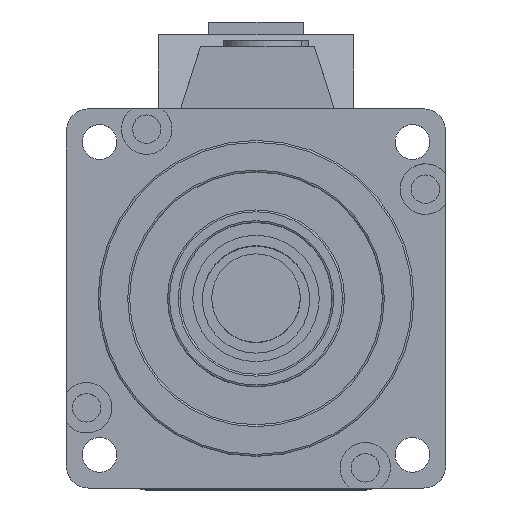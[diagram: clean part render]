
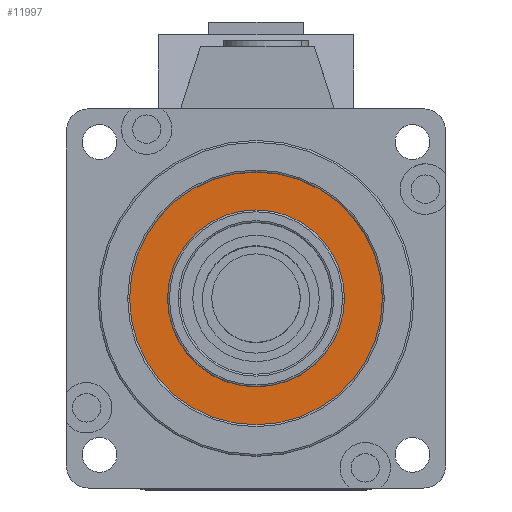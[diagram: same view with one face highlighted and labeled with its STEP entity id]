
A CAD part, top view. The second image highlights one B-rep face of the part: STEP entity #11997.
In plain terms, the highlighted planar face has unit normal (0, 0, 1).
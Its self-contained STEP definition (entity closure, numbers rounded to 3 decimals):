
#573 = DIRECTION ( 'NONE',  ( -1., 0., 0. ) ) ;
#928 = CIRCLE ( 'NONE', #8836, 14. ) ;
#2315 = EDGE_LOOP ( 'NONE', ( #10355, #2454 ) ) ;
#2324 = CIRCLE ( 'NONE', #8958, 14. ) ;
#2454 = ORIENTED_EDGE ( 'NONE', *, *, #6984, .F. ) ;
#3683 = AXIS2_PLACEMENT_3D ( 'NONE', #5120, #8228, #8318 ) ;
#3873 = EDGE_CURVE ( 'NONE', #6689, #4445, #928, .T. ) ;
#3915 = VERTEX_POINT ( 'NONE', #10394 ) ;
#4169 = CIRCLE ( 'NONE', #3683, 20. ) ;
#4289 = CARTESIAN_POINT ( 'NONE',  ( 30., 30., 0. ) ) ;
#4445 = VERTEX_POINT ( 'NONE', #10862 ) ;
#4563 = DIRECTION ( 'NONE',  ( 0., 0., 1. ) ) ;
#4814 = PLANE ( 'NONE',  #12003 ) ;
#5024 = EDGE_CURVE ( 'NONE', #13205, #3915, #4169, .T. ) ;
#5120 = CARTESIAN_POINT ( 'NONE',  ( 30., 30., 0. ) ) ;
#5342 = CARTESIAN_POINT ( 'NONE',  ( 16., 30., 0. ) ) ;
#5361 = AXIS2_PLACEMENT_3D ( 'NONE', #4289, #4563, #7680 ) ;
#5493 = CIRCLE ( 'NONE', #5361, 20. ) ;
#6046 = DIRECTION ( 'NONE',  ( -1., 0., 0. ) ) ;
#6110 = FACE_OUTER_BOUND ( 'NONE', #6688, .T. ) ;
#6688 = EDGE_LOOP ( 'NONE', ( #8624, #12233 ) ) ;
#6689 = VERTEX_POINT ( 'NONE', #5342 ) ;
#6903 = CARTESIAN_POINT ( 'NONE',  ( 30., 30., 0. ) ) ;
#6984 = EDGE_CURVE ( 'NONE', #4445, #6689, #2324, .T. ) ;
#7680 = DIRECTION ( 'NONE',  ( 1., 0., 0. ) ) ;
#7953 = DIRECTION ( 'NONE',  ( 0., 0., 1. ) ) ;
#8012 = DIRECTION ( 'NONE',  ( 0., 0., -1. ) ) ;
#8098 = CARTESIAN_POINT ( 'NONE',  ( 30., 30., 0. ) ) ;
#8184 = DIRECTION ( 'NONE',  ( 0., 0., 1. ) ) ;
#8228 = DIRECTION ( 'NONE',  ( 0., 0., 1. ) ) ;
#8318 = DIRECTION ( 'NONE',  ( 1., 0., 0. ) ) ;
#8624 = ORIENTED_EDGE ( 'NONE', *, *, #5024, .T. ) ;
#8836 = AXIS2_PLACEMENT_3D ( 'NONE', #8098, #8184, #6046 ) ;
#8958 = AXIS2_PLACEMENT_3D ( 'NONE', #6903, #7953, #573 ) ;
#9191 = CARTESIAN_POINT ( 'NONE',  ( 10., 30., 0. ) ) ;
#10125 = DIRECTION ( 'NONE',  ( -1., 0., 0. ) ) ;
#10355 = ORIENTED_EDGE ( 'NONE', *, *, #3873, .F. ) ;
#10394 = CARTESIAN_POINT ( 'NONE',  ( 50., 30., 0. ) ) ;
#10537 = EDGE_CURVE ( 'NONE', #3915, #13205, #5493, .T. ) ;
#10862 = CARTESIAN_POINT ( 'NONE',  ( 44., 30., 0. ) ) ;
#11997 = ADVANCED_FACE ( 'NONE', ( #6110, #13100 ), #4814, .F. ) ;
#12003 = AXIS2_PLACEMENT_3D ( 'NONE', #12092, #8012, #10125 ) ;
#12092 = CARTESIAN_POINT ( 'NONE',  ( 3.5, 56.5, 0. ) ) ;
#12233 = ORIENTED_EDGE ( 'NONE', *, *, #10537, .T. ) ;
#13100 = FACE_BOUND ( 'NONE', #2315, .T. ) ;
#13205 = VERTEX_POINT ( 'NONE', #9191 ) ;
